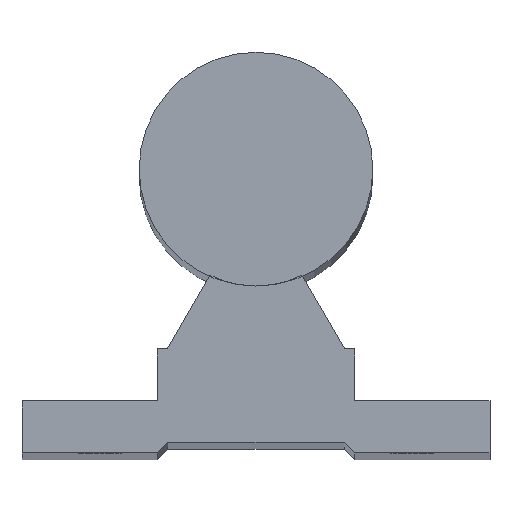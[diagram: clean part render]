
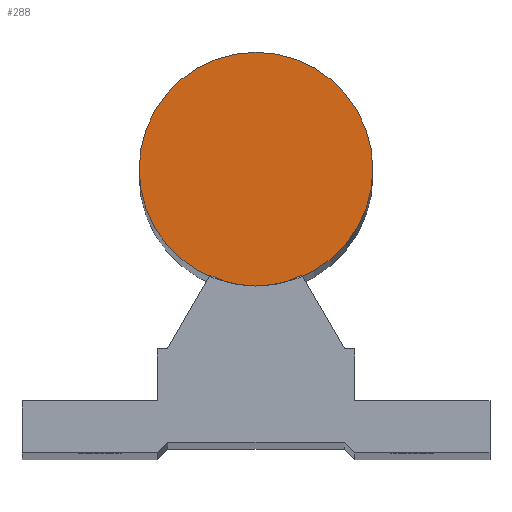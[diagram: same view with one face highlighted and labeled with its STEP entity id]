
A CAD part, top view. The second image highlights one B-rep face of the part: STEP entity #288.
In plain terms, the highlighted planar face has unit normal (0, 0, 1).
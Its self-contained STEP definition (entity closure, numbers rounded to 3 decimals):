
#288=ADVANCED_FACE('',(#519),#521,.T.);
#519=FACE_BOUND('',#520,.T.);
#520=EDGE_LOOP('',(#655));
#521=PLANE('',#522);
#522=AXIS2_PLACEMENT_3D('',#523,#524,#525);
#523=CARTESIAN_POINT('',(0.,0.,500.));
#524=DIRECTION('',(0.,0.,1.));
#525=DIRECTION('',(1.,0.,0.));
#655=ORIENTED_EDGE('',*,*,#717,.T.);
#717=EDGE_CURVE('',#823,#823,#824,.T.);
#823=VERTEX_POINT('',#1065);
#824=CIRCLE('',#1066,15.);
#1065=CARTESIAN_POINT('',(15.,5.959,500.));
#1066=AXIS2_PLACEMENT_3D('',#1067,#1068,#1069);
#1067=CARTESIAN_POINT('',(0.,5.959,500.));
#1068=DIRECTION('',(0.,0.,1.));
#1069=DIRECTION('',(1.,0.,0.));
